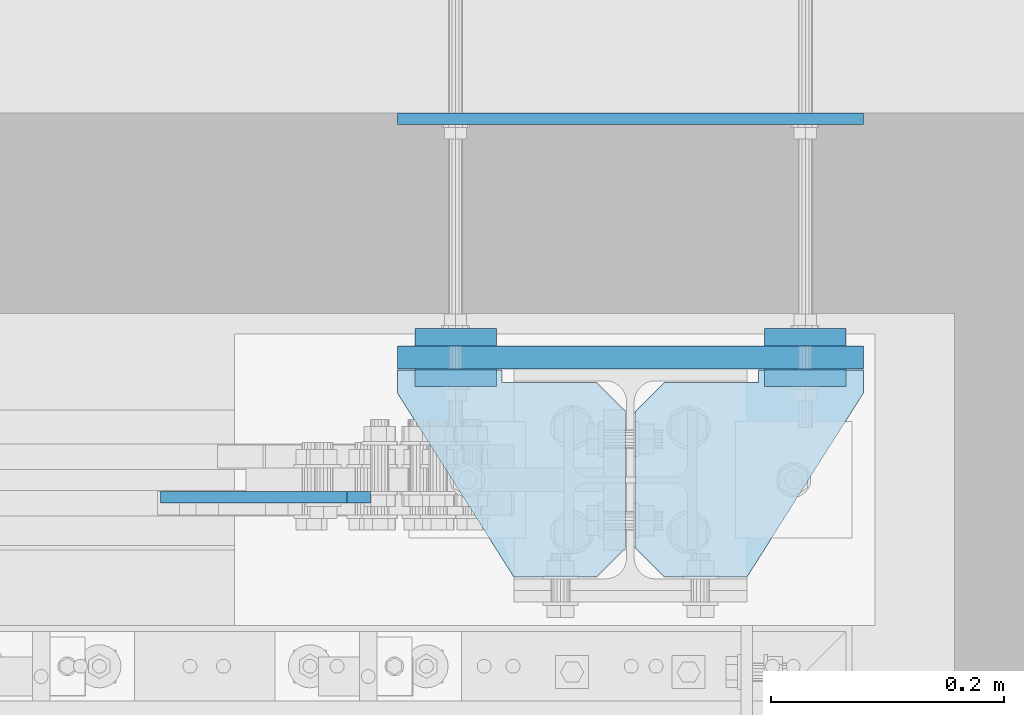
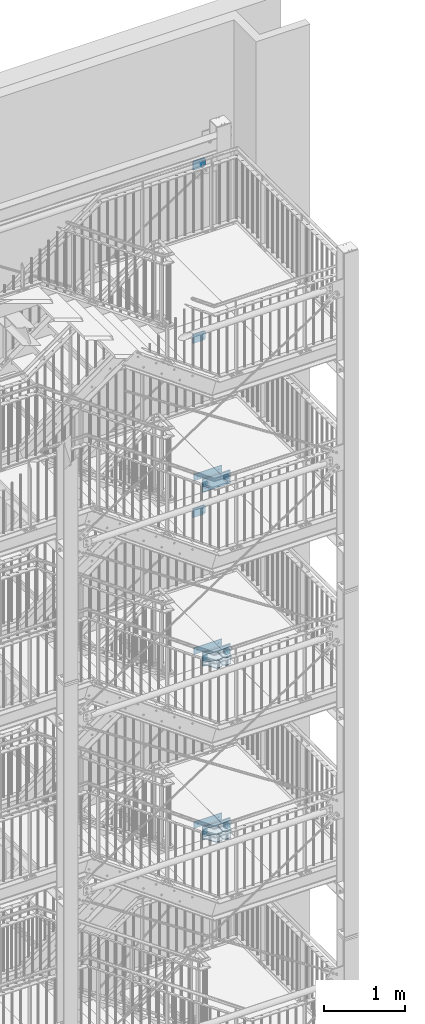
# One storey, part 215 of 831: 29 plates, 52 openings.
"""IFC2X3 building model written with IfcOpenShell, lengths in millimetres."""

import ifcopenshell
import ifcopenshell.guid

model = None  # the IFC model being written
_history = None  # IfcOwnerHistory: only IFC2X3 demands one
_inside = {}  # id of a spatial element -> (the spatial element, [elements in it])
_under = {}  # id of a project, library or spatial element -> (it, [spatial elements below it])
_declared = {}  # id of a project -> (the project, [libraries it declares])
_typed = {}  # id of a type object -> (the type object, [elements of that type])
_made_of = {}  # id of a material, layer set ... -> (it, [elements and type objects made of it])


def new_model(schema):
    """Start an empty IFC model of exactly this schema.

    Asked for "IFC4X3", IfcOpenShell would pick the latest addendum, in which some entities
    have other attributes; the version numbers below select the first issue.
    IFC2X3 requires an IfcOwnerHistory on every rooted entity: one is made here for all.
    """
    global model, _history
    if schema == "IFC4X3":
        model = ifcopenshell.file(schema_version=(4, 3, 0, 0))
    else:
        model = ifcopenshell.file(schema=schema)
    _inside.clear()
    _under.clear()
    _declared.clear()
    _typed.clear()
    _made_of.clear()
    _history = None
    if model.schema == "IFC2X3":
        org = make("IfcOrganization", Name="unknown")
        user = make(
            "IfcPersonAndOrganization",
            ThePerson=make("IfcPerson", FamilyName="unknown"),
            TheOrganization=org,
        )
        app = make(
            "IfcApplication",
            ApplicationDeveloper=org,
            Version="unknown",
            ApplicationFullName="unknown",
            ApplicationIdentifier="unknown",
        )
        _history = make(
            "IfcOwnerHistory",
            OwningUser=user,
            OwningApplication=app,
            ChangeAction="ADDED",
            CreationDate=0,
        )
    return model


def make(cls, **values):
    """One entity of the class cls with the attributes given. An attribute that is None is left unset."""
    return model.create_entity(
        cls, **{name: value for name, value in values.items() if value is not None}
    )


def entity(cls, *values):
    """Any entity or typed value of the class cls, its attributes in the order of the schema. None: left unset."""
    e = model.create_entity(cls)
    for i, value in enumerate(values):
        if value is not None:
            e[i] = value
    return e


def rooted(cls, **values):
    """An entity with a GlobalId (a new one), such as an element, a storey or a relation."""
    return make(cls, GlobalId=ifcopenshell.guid.new(), OwnerHistory=_history, **values)


def si_unit(unit_type, name, prefix=None):
    """IfcSIUnit, for example si_unit("LENGTHUNIT", "METRE", prefix="MILLI")."""
    return make("IfcSIUnit", UnitType=unit_type, Prefix=prefix, Name=name)


def converted_unit(unit_type, name, factor, base, dimensions=None, offset=None):
    """IfcConversionBasedUnit, such as the inch: factor (a typed value) times the base unit."""
    return make(
        "IfcConversionBasedUnit"
        if offset is None
        else "IfcConversionBasedUnitWithOffset",
        ConversionOffset=offset,
        Dimensions=None
        if dimensions is None
        else entity("IfcDimensionalExponents", *dimensions),
        UnitType=unit_type,
        Name=name,
        ConversionFactor=make(
            "IfcMeasureWithUnit", ValueComponent=factor, UnitComponent=base
        ),
    )


def assignment(units):
    """IfcUnitAssignment: the units of a project."""
    return None if units is None else make("IfcUnitAssignment", Units=units)


def point(xyz):
    """IfcCartesianPoint."""
    return None if xyz is None else make("IfcCartesianPoint", Coordinates=xyz)


def direction(xyz):
    """IfcDirection."""
    return None if xyz is None else make("IfcDirection", DirectionRatios=xyz)


def frame(location, z_axis=None, x_axis=None):
    """IfcAxis2Placement3D, a coordinate frame: its origin and axes. An axis left out is left unset."""
    return make(
        "IfcAxis2Placement3D",
        Location=point(location),
        Axis=direction(z_axis),
        RefDirection=direction(x_axis),
    )


def frame_2d(location, x_axis=None):
    """IfcAxis2Placement2D, a coordinate frame in the plane: its origin and x axis."""
    return make(
        "IfcAxis2Placement2D", Location=point(location), RefDirection=direction(x_axis)
    )


def origin():
    """The frame at (0, 0, 0) with its axes left unset."""
    return frame((0.0, 0.0, 0.0))


def origin_with_axes():
    """The frame at (0, 0, 0) with the z axis (0, 0, 1) and the x axis (1, 0, 0) written out."""
    return frame((0.0, 0.0, 0.0), z_axis=(0.0, 0.0, 1.0), x_axis=(1.0, 0.0, 0.0))


def origin_2d_with_axis():
    """The frame at (0, 0) in the plane with the x axis (1, 0) written out."""
    return frame_2d((0.0, 0.0), x_axis=(1.0, 0.0))


def place(relative_to, where):
    """IfcLocalPlacement: puts the frame where relative to a parent placement (None: the world)."""
    return make(
        "IfcLocalPlacement", PlacementRelTo=relative_to, RelativePlacement=where
    )


def context(
    kind, dimensions, precision=None, world=None, true_north=None, identifier=None
):
    """IfcGeometricRepresentationContext, for example the 3D "Model" context."""
    return make(
        "IfcGeometricRepresentationContext",
        ContextIdentifier=identifier,
        ContextType=kind,
        CoordinateSpaceDimension=dimensions,
        Precision=precision,
        WorldCoordinateSystem=world,
        TrueNorth=true_north,
    )


def project(units=None, contexts=None):
    """IfcProject with its units and contexts."""
    return rooted(
        "IfcProject",
        Name="project",
        RepresentationContexts=contexts,
        UnitsInContext=assignment(units),
    )


def spatial(cls, under=None, at=None, **own):
    """A site, building, storey or space (cls), placed at a placement, below another one or the project."""
    s = rooted(cls, ObjectPlacement=at, **own)
    if under is not None:
        _under.setdefault(under.id(), (under, []))[1].append(s)
    return s


def polyline(points):
    """IfcPolyline through the points."""
    return make("IfcPolyline", Points=[point(p) for p in points])


def profile(cls, at=None, kind="AREA", **sizes):
    """A parametric profile (cls). Its sizes go by their IFC names, for example OverallWidth=200.0."""
    return make(cls, ProfileType=kind, Position=at, **sizes)


def circle(**sizes):
    """IfcCircleProfileDef."""
    return profile("IfcCircleProfileDef", **sizes)


def outline(outer, holes=None, kind="AREA"):
    """IfcArbitraryClosedProfileDef: a profile drawn as a closed curve; with holes, ...WithVoids."""
    if holes is None:
        return make("IfcArbitraryClosedProfileDef", ProfileType=kind, OuterCurve=outer)
    return make(
        "IfcArbitraryProfileDefWithVoids",
        ProfileType=kind,
        OuterCurve=outer,
        InnerCurves=holes,
    )


def extrude(swept, where, along, depth):
    """IfcExtrudedAreaSolid: the profile swept, set in the frame where, extruded along a direction by depth."""
    return make(
        "IfcExtrudedAreaSolid",
        SweptArea=swept,
        Position=where,
        ExtrudedDirection=direction(along),
        Depth=depth,
    )


def shape(context_of_items, identifier, shape_type, items):
    """IfcShapeRepresentation: the items that make up one representation, for example the "Body"."""
    return make(
        "IfcShapeRepresentation",
        ContextOfItems=context_of_items,
        RepresentationIdentifier=identifier,
        RepresentationType=shape_type,
        Items=items,
    )


def material(Name=None, Category=None):
    """IfcMaterial."""
    return make("IfcMaterial", Name=Name, Category=Category)


def layer(
    of_material, thickness, ventilated=None, Name=None, Category=None, Priority=None
):
    """IfcMaterialLayer: one layer of a wall or slab, of a material (None: an air gap)."""
    return make(
        "IfcMaterialLayer",
        Material=of_material,
        LayerThickness=thickness,
        IsVentilated=ventilated,
        Name=Name,
        Category=Category,
        Priority=Priority,
    )


def layer_set(layers, Name=None):
    """IfcMaterialLayerSet."""
    return make("IfcMaterialLayerSet", MaterialLayers=layers, LayerSetName=Name)


def made_of(thing, what):
    """Note that an element or type object is made of a material, layer set ...; save() writes the relation."""
    if what is not None:
        _made_of.setdefault(what.id(), (what, []))[1].append(thing)
    return thing


def element(
    cls,
    number,
    at=None,
    inside=None,
    cuts=None,
    type_object=None,
    material=None,
    context=None,
    identifier="Body",
    shape_type=None,
    held_by="IfcProductDefinitionShape",
    body=None,
    shapes=None,
    **own,
):
    """One element of the class cls, such as IfcWall. Its Tag is "e" and its number.

    at: its placement. inside: the storey or other place that contains it. cuts: it is an
    opening in that element (IfcRelVoidsElement). A single representation is given by context,
    identifier, shape_type and body (its items); several are given by shapes. held_by: the class
    of the entity that holds the representations. save() writes the other relations.
    """
    e = rooted(cls, Tag="e%d" % number, ObjectPlacement=at, **own)
    if body is not None:
        shapes = [shape(context, identifier, shape_type, body)]
    if shapes is not None:
        e.Representation = make(held_by, Representations=shapes)
    if inside is not None:
        _inside.setdefault(inside.id(), (inside, []))[1].append(e)
    if cuts is not None:
        rooted(
            "IfcRelVoidsElement", RelatingBuildingElement=cuts, RelatedOpeningElement=e
        )
    if type_object is not None:
        _typed.setdefault(type_object.id(), (type_object, []))[1].append(e)
    return made_of(e, material)


def aggregate(whole, parts):
    """IfcRelAggregates: a whole, such as a stair, and the parts it consists of."""
    return rooted("IfcRelAggregates", RelatingObject=whole, RelatedObjects=parts)


def save(model, path):
    """Write the relations noted so far, then the file.

    IfcRelAggregates (storeys below a building ...), IfcRelContainedInSpatialStructure (elements
    in a storey), IfcRelDefinesByType, IfcRelAssociatesMaterial and IfcRelDeclares: one each for
    every whole, place, type object, material and project.
    """
    for whole, parts in _under.values():
        aggregate(whole, parts)
    for where, things in _inside.values():
        rooted(
            "IfcRelContainedInSpatialStructure",
            RelatedElements=things,
            RelatingStructure=where,
        )
    for kind, things in _typed.values():
        rooted("IfcRelDefinesByType", RelatedObjects=things, RelatingType=kind)
    for what, things in _made_of.values():
        rooted("IfcRelAssociatesMaterial", RelatedObjects=things, RelatingMaterial=what)
    for by, libraries in _declared.values():
        rooted("IfcRelDeclares", RelatingContext=by, RelatedDefinitions=libraries)
    model.write(path)


model = new_model("IFC2X3")

# Units and contexts
model_context = context("Model", 3, precision=1e-09, world=origin_with_axes())
ifc_project = project(units=[si_unit("LENGTHUNIT", "METRE", prefix="MILLI"), si_unit("AREAUNIT", "SQUARE_METRE"), si_unit("VOLUMEUNIT", "CUBIC_METRE"), converted_unit("PLANEANGLEUNIT", "DEGREE", entity("IfcPlaneAngleMeasure", 0.01745329), si_unit("PLANEANGLEUNIT", "RADIAN"), dimensions=[0, 0, 0, 0, 0, 0, 0])], contexts=[model_context])

# Site, building, storey
site_placement = place(None, origin_with_axes())
site = spatial("IfcSite", under=ifc_project, at=site_placement, Name="Site", CompositionType="ELEMENT")
building_placement = place(site_placement, origin_with_axes())
building = spatial("IfcBuilding", under=site, at=building_placement, Name="Struktur 1", CompositionType="ELEMENT")
storey_placement = place(building_placement, origin_with_axes())
storey = spatial("IfcBuildingStorey", under=building, at=storey_placement, Name="Default Storey", CompositionType="ELEMENT", Elevation=0.0)

# Plate, openings
ifc_material = material(Name="S235JR")
ifc_layer_1 = layer(ifc_material, 10.0)
ifc_layer_set_1 = layer_set([ifc_layer_1], Name="S235JR")
plate_1_placement = place(None, frame((8553.463402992, 7506.736971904, 12243.999996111), z_axis=(0.0, -1.0, 0.0), x_axis=(1.0, 0.0, 0.0)))
plate_1 = element("IfcPlate", 1, at=plate_1_placement, inside=storey, material=ifc_layer_set_1, Name="-", ObjectType="-", context=model_context, shape_type="SweptSolid", body=[
    extrude(outline(polyline([(-90.0, -70.0), (90.0, -70.0), (90.0, 70.0), (-90.0, 70.0), (-90.0, -70.0)])), origin_with_axes(), (0.0, 0.0, 1.0), 10.0),
])
opening_1_placement = place(plate_1_placement, frame((0.0, 0.0, -0.01), z_axis=(0.0, 0.0, 1.0), x_axis=(1.0, 0.0, 0.0)))
element("IfcOpeningElement", 2, at=opening_1_placement, cuts=plate_1, ObjectType="Opening", context=model_context, shape_type="SweptSolid", body=[
    extrude(outline(polyline([(90.0, -70.0), (90.0, -50.0), (70.0, -70.0), (90.0, -70.0)])), origin(), (0.0, 0.0, 1.0), 10.02),
])
opening_2_placement = place(plate_1_placement, frame((0.0, 0.0, -0.01), z_axis=(0.0, 0.0, 1.0), x_axis=(1.0, 0.0, 0.0)))
element("IfcOpeningElement", 3, at=opening_2_placement, cuts=plate_1, ObjectType="Opening", context=model_context, shape_type="SweptSolid", body=[
    extrude(outline(polyline([(90.0, 70.0), (70.0, 70.0), (90.0, 50.0), (90.0, 70.0)])), origin(), (0.0, 0.0, 1.0), 10.02),
])
opening_3_placement = place(plate_1_placement, frame((50.0, 0.0, -0.5), z_axis=(0.0, 0.0, 1.0), x_axis=(1.0, 0.0, 0.0)))
element("IfcOpeningElement", 4, at=opening_3_placement, cuts=plate_1, ObjectType="Opening", context=model_context, shape_type="SweptSolid", body=[
    extrude(circle(Radius=9.001, at=frame_2d((0.0, 30.0), x_axis=(1.0, 0.0))), origin(), (0.0, 0.0, 1.0), 11.0),
])
opening_4_placement = place(plate_1_placement, frame((50.0, 0.0, -0.5), z_axis=(0.0, 0.0, 1.0), x_axis=(1.0, 0.0, 0.0)))
element("IfcOpeningElement", 5, at=opening_4_placement, cuts=plate_1, ObjectType="Opening", context=model_context, shape_type="SweptSolid", body=[
    extrude(circle(Radius=9.001, at=frame_2d((0.0, -30.0), x_axis=(1.0, 0.0))), origin(), (0.0, 0.0, 1.0), 11.0),
])

plate_2_placement = place(None, frame((8553.463402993, 7506.736971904, 14878.999996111), z_axis=(0.0, -1.0, 0.0), x_axis=(1.0, 0.0, 0.0)))
plate_2 = element("IfcPlate", 6, at=plate_2_placement, inside=storey, material=ifc_layer_set_1, Name="-", ObjectType="-", context=model_context, shape_type="SweptSolid", body=[
    extrude(outline(polyline([(-90.0, -70.0), (90.0, -70.0), (90.0, 70.0), (-90.0, 70.0), (-90.0, -70.0)])), origin_with_axes(), (0.0, 0.0, 1.0), 10.0),
])
opening_5_placement = place(plate_2_placement, frame((0.0, 0.0, -0.01), z_axis=(0.0, 0.0, 1.0), x_axis=(1.0, 0.0, 0.0)))
element("IfcOpeningElement", 7, at=opening_5_placement, cuts=plate_2, ObjectType="Opening", context=model_context, shape_type="SweptSolid", body=[
    extrude(outline(polyline([(90.0, -70.0), (90.0, -50.0), (70.0, -70.0), (90.0, -70.0)])), origin(), (0.0, 0.0, 1.0), 10.02),
])
opening_6_placement = place(plate_2_placement, frame((0.0, 0.0, -0.01), z_axis=(0.0, 0.0, 1.0), x_axis=(1.0, 0.0, 0.0)))
element("IfcOpeningElement", 8, at=opening_6_placement, cuts=plate_2, ObjectType="Opening", context=model_context, shape_type="SweptSolid", body=[
    extrude(outline(polyline([(90.0, 70.0), (70.0, 70.0), (90.0, 50.0), (90.0, 70.0)])), origin(), (0.0, 0.0, 1.0), 10.02),
])
opening_7_placement = place(plate_2_placement, frame((50.0, 0.0, -0.5), z_axis=(0.0, 0.0, 1.0), x_axis=(1.0, 0.0, 0.0)))
element("IfcOpeningElement", 9, at=opening_7_placement, cuts=plate_2, ObjectType="Opening", context=model_context, shape_type="SweptSolid", body=[
    extrude(circle(Radius=9.001, at=frame_2d((0.0, 30.0), x_axis=(1.0, 0.0))), origin(), (0.0, 0.0, 1.0), 11.0),
])
opening_8_placement = place(plate_2_placement, frame((50.0, 0.0, -0.5), z_axis=(0.0, 0.0, 1.0), x_axis=(1.0, 0.0, 0.0)))
element("IfcOpeningElement", 10, at=opening_8_placement, cuts=plate_2, ObjectType="Opening", context=model_context, shape_type="SweptSolid", body=[
    extrude(circle(Radius=9.001, at=frame_2d((0.0, -30.0), x_axis=(1.0, 0.0))), origin(), (0.0, 0.0, 1.0), 11.0),
])

plate_3_placement = place(None, frame((8553.463402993, 7506.736971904, 17498.999996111), z_axis=(0.0, -1.0, 0.0), x_axis=(1.0, 0.0, 0.0)))
plate_3 = element("IfcPlate", 11, at=plate_3_placement, inside=storey, material=ifc_layer_set_1, Name="-", ObjectType="-", context=model_context, shape_type="SweptSolid", body=[
    extrude(outline(polyline([(-90.0, -70.0), (90.0, -70.0), (90.0, 70.0), (-90.0, 70.0), (-90.0, -70.0)])), origin_with_axes(), (0.0, 0.0, 1.0), 10.0),
])
opening_9_placement = place(plate_3_placement, frame((0.0, 0.0, -0.01), z_axis=(0.0, 0.0, 1.0), x_axis=(1.0, 0.0, 0.0)))
element("IfcOpeningElement", 12, at=opening_9_placement, cuts=plate_3, ObjectType="Opening", context=model_context, shape_type="SweptSolid", body=[
    extrude(outline(polyline([(90.0, -70.0), (90.0, -50.0), (70.0, -70.0), (90.0, -70.0)])), origin(), (0.0, 0.0, 1.0), 10.02),
])
opening_10_placement = place(plate_3_placement, frame((0.0, 0.0, -0.01), z_axis=(0.0, 0.0, 1.0), x_axis=(1.0, 0.0, 0.0)))
element("IfcOpeningElement", 13, at=opening_10_placement, cuts=plate_3, ObjectType="Opening", context=model_context, shape_type="SweptSolid", body=[
    extrude(outline(polyline([(90.0, 70.0), (70.0, 70.0), (90.0, 50.0), (90.0, 70.0)])), origin(), (0.0, 0.0, 1.0), 10.02),
])
opening_11_placement = place(plate_3_placement, frame((50.0, 0.0, -0.5), z_axis=(0.0, 0.0, 1.0), x_axis=(1.0, 0.0, 0.0)))
element("IfcOpeningElement", 14, at=opening_11_placement, cuts=plate_3, ObjectType="Opening", context=model_context, shape_type="SweptSolid", body=[
    extrude(circle(Radius=9.001, at=frame_2d((0.0, 30.0), x_axis=(1.0, 0.0))), origin(), (0.0, 0.0, 1.0), 11.0),
])
opening_12_placement = place(plate_3_placement, frame((50.0, 0.0, -0.5), z_axis=(0.0, 0.0, 1.0), x_axis=(1.0, 0.0, 0.0)))
element("IfcOpeningElement", 15, at=opening_12_placement, cuts=plate_3, ObjectType="Opening", context=model_context, shape_type="SweptSolid", body=[
    extrude(circle(Radius=9.001, at=frame_2d((0.0, -30.0), x_axis=(1.0, 0.0))), origin(), (0.0, 0.0, 1.0), 11.0),
])

ifc_layer_2 = layer(ifc_material, 20.0)
ifc_layer_set_2 = layer_set([ifc_layer_2], Name="S235JR")
plate_4_placement = place(None, frame((8866.713402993, 7631.736971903, 7255.000000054), z_axis=(0.0, -1.0, 0.0), x_axis=(1.0, 0.0, 0.0)))
plate_4 = element("IfcPlate", 16, at=plate_4_placement, inside=storey, material=ifc_layer_set_2, Name="-", ObjectType="-", context=model_context, shape_type="SweptSolid", body=[
    extrude(outline(polyline([(-200.0, -100.0), (200.0, -100.0), (200.0, 100.0), (-200.0, 100.0), (-200.0, -100.0)])), origin_with_axes(), (0.0, 0.0, 1.0), 20.0),
])
opening_13_placement = place(plate_4_placement, frame((-3.4e-08, -5.4e-08, -0.5), z_axis=(0.0, 0.0, 1.0), x_axis=(1.0, 0.0, 0.0)))
element("IfcOpeningElement", 17, at=opening_13_placement, cuts=plate_4, ObjectType="Opening", context=model_context, shape_type="SweptSolid", body=[
    extrude(circle(Radius=20.001, at=frame_2d((150.0, 0.0), x_axis=(1.0, 0.0))), origin(), (0.0, 0.0, 1.0), 21.0),
])
opening_14_placement = place(plate_4_placement, frame((-3.4e-08, -5.4e-08, -0.5), z_axis=(0.0, 0.0, 1.0), x_axis=(1.0, 0.0, 0.0)))
element("IfcOpeningElement", 18, at=opening_14_placement, cuts=plate_4, ObjectType="Opening", context=model_context, shape_type="SweptSolid", body=[
    extrude(circle(Radius=20.001, at=frame_2d((-150.0, 0.0), x_axis=(1.0, 0.0))), origin(), (0.0, 0.0, 1.0), 21.0),
])

# Plate, opening
ifc_layer_3 = layer(ifc_material, 15.0)
ifc_layer_set_3 = layer_set([ifc_layer_3], Name="S235JR")
plate_5_placement = place(None, frame((8716.71340296, 7611.736971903, 7255.0), z_axis=(0.0, -1.0, 0.0), x_axis=(1.0, 0.0, 0.0)))
plate_5 = element("IfcPlate", 19, at=plate_5_placement, inside=storey, material=ifc_layer_set_3, Name="-", ObjectType="-", context=model_context, shape_type="SweptSolid", body=[
    extrude(outline(polyline([(-35.0, -35.0), (35.0, -35.0), (35.0, 35.0), (-35.0, 35.0), (-35.0, -35.0)])), origin_with_axes(), (0.0, 0.0, 1.0), 15.0),
])
opening_15_placement = place(plate_5_placement, frame((-2.68e-07, 0.0, -0.5), z_axis=(0.0, 0.0, 1.0), x_axis=(1.0, 0.0, 0.0)))
element("IfcOpeningElement", 20, at=opening_15_placement, cuts=plate_5, ObjectType="Opening", context=model_context, shape_type="SweptSolid", body=[
    extrude(circle(Radius=7.001, at=origin_2d_with_axis()), origin(), (0.0, 0.0, 1.0), 16.0),
])

plate_6_placement = place(None, frame((8716.71340296, 7646.736971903, 7255.0), z_axis=(0.0, -1.0, 0.0), x_axis=(1.0, 0.0, 0.0)))
plate_6 = element("IfcPlate", 21, at=plate_6_placement, inside=storey, material=ifc_layer_set_3, Name="-", ObjectType="-", context=model_context, shape_type="SweptSolid", body=[
    extrude(outline(polyline([(-35.0, -35.0), (35.0, -35.0), (35.0, 35.0), (-35.0, 35.0), (-35.0, -35.0)])), origin_with_axes(), (0.0, 0.0, 1.0), 15.0),
])
opening_16_placement = place(plate_6_placement, frame((-2.68e-07, 0.0, -0.5), z_axis=(0.0, 0.0, 1.0), x_axis=(1.0, 0.0, 0.0)))
element("IfcOpeningElement", 22, at=opening_16_placement, cuts=plate_6, ObjectType="Opening", context=model_context, shape_type="SweptSolid", body=[
    extrude(circle(Radius=7.001, at=origin_2d_with_axis()), origin(), (0.0, 0.0, 1.0), 16.0),
])

# Plate, openings
plate_7_placement = place(None, frame((8866.713402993, 7831.736971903, 7255.000000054), z_axis=(0.0, -1.0, 0.0), x_axis=(1.0, 0.0, 0.0)))
plate_7 = element("IfcPlate", 23, at=plate_7_placement, inside=storey, material=ifc_layer_set_1, Name="-", ObjectType="-", context=model_context, shape_type="SweptSolid", body=[
    extrude(outline(polyline([(-200.0, -50.0), (200.0, -50.0), (200.0, 50.0), (-200.0, 50.0), (-200.0, -50.0)])), origin_with_axes(), (0.0, 0.0, 1.0), 10.0),
])
opening_17_placement = place(plate_7_placement, frame((-3.4e-08, -5.4e-08, -0.5), z_axis=(0.0, 0.0, 1.0), x_axis=(1.0, 0.0, 0.0)))
element("IfcOpeningElement", 24, at=opening_17_placement, cuts=plate_7, ObjectType="Opening", context=model_context, shape_type="SweptSolid", body=[
    extrude(circle(Radius=7.001, at=frame_2d((150.0, 0.0), x_axis=(1.0, 0.0))), origin(), (0.0, 0.0, 1.0), 11.0),
])
opening_18_placement = place(plate_7_placement, frame((-3.4e-08, -5.4e-08, -0.5), z_axis=(0.0, 0.0, 1.0), x_axis=(1.0, 0.0, 0.0)))
element("IfcOpeningElement", 25, at=opening_18_placement, cuts=plate_7, ObjectType="Opening", context=model_context, shape_type="SweptSolid", body=[
    extrude(circle(Radius=7.001, at=frame_2d((-150.0, 0.0), x_axis=(1.0, 0.0))), origin(), (0.0, 0.0, 1.0), 11.0),
])

plate_8_placement = place(None, frame((8666.713402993, 7611.236971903, 7310.000000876), z_axis=(0.0, 0.0, 1.0), x_axis=(0.0, -1.0, 0.0)))
plate_8 = element("IfcPlate", 26, at=plate_8_placement, inside=storey, material=ifc_layer_set_1, Name="-", ObjectType="-", context=model_context, shape_type="SweptSolid", body=[
    extrude(outline(polyline([(0.0, 0.0), (20.0, 0.0), (178.0, 100.0), (178.0, 196.0), (11.0, 196.0), (11.0, 90.0), (0.0, 90.0), (0.0, 0.0)])), origin_with_axes(), (0.0, 0.0, 1.0), 10.0),
])
opening_19_placement = place(plate_8_placement, frame((0.0, 0.0, -0.01), z_axis=(0.0, 0.0, 1.0), x_axis=(1.0, 0.0, 0.0)))
element("IfcOpeningElement", 27, at=opening_19_placement, cuts=plate_8, ObjectType="Opening", context=model_context, shape_type="SweptSolid", body=[
    extrude(outline(polyline([(11.0, 196.0), (11.0, 171.0), (36.0, 196.0), (11.0, 196.0)])), origin(), (0.0, 0.0, 1.0), 10.02),
])
opening_20_placement = place(plate_8_placement, frame((0.0, 0.0, -0.01), z_axis=(0.0, 0.0, 1.0), x_axis=(1.0, 0.0, 0.0)))
element("IfcOpeningElement", 28, at=opening_20_placement, cuts=plate_8, ObjectType="Opening", context=model_context, shape_type="SweptSolid", body=[
    extrude(outline(polyline([(178.0, 196.0), (153.0, 196.0), (178.0, 171.0), (178.0, 196.0)])), origin(), (0.0, 0.0, 1.0), 10.02),
])

plate_9_placement = place(None, frame((9066.713402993, 7611.236971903, 7310.000000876), z_axis=(0.0, 0.0, -1.0), x_axis=(0.0, -1.0, 0.0)))
plate_9 = element("IfcPlate", 29, at=plate_9_placement, inside=storey, material=ifc_layer_set_1, Name="-", ObjectType="-", context=model_context, shape_type="SweptSolid", body=[
    extrude(outline(polyline([(0.0, 0.0), (20.0, 0.0), (178.0, 100.0), (178.0, 196.0), (11.0, 196.0), (11.0, 90.0), (0.0, 90.0), (0.0, 0.0)])), origin_with_axes(), (0.0, 0.0, -1.0), 10.0),
])
opening_21_placement = place(plate_9_placement, frame((11.0, 196.0, 0.01), z_axis=(0.0, 0.0, 1.0), x_axis=(0.0, -1.0, 0.0)))
element("IfcOpeningElement", 30, at=opening_21_placement, cuts=plate_9, ObjectType="Opening", context=model_context, shape_type="SweptSolid", body=[
    extrude(outline(polyline([(0.0, 0.0), (25.0, 0.0), (0.0, 25.0), (0.0, 0.0)])), origin(), (0.0, 0.0, -1.0), 10.02),
])
opening_22_placement = place(plate_9_placement, frame((178.0, 196.0, 0.01), z_axis=(0.0, 0.0, 1.0), x_axis=(-1.0, 0.0, 0.0)))
element("IfcOpeningElement", 31, at=opening_22_placement, cuts=plate_9, ObjectType="Opening", context=model_context, shape_type="SweptSolid", body=[
    extrude(outline(polyline([(0.0, 0.0), (25.0, 0.0), (0.0, 25.0), (0.0, 0.0)])), origin(), (0.0, 0.0, -1.0), 10.02),
])

plate_10_placement = place(None, frame((8666.713402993, 7611.236971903, 7190.000000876), z_axis=(0.0, 0.0, 1.0), x_axis=(0.0, -1.0, 0.0)))
plate_10 = element("IfcPlate", 32, at=plate_10_placement, inside=storey, material=ifc_layer_set_1, Name="-", ObjectType="-", context=model_context, shape_type="SweptSolid", body=[
    extrude(outline(polyline([(0.0, 0.0), (20.0, 0.0), (178.0, 100.0), (178.0, 196.0), (11.0, 196.0), (11.0, 90.0), (0.0, 90.0), (0.0, 0.0)])), origin_with_axes(), (0.0, 0.0, 1.0), 10.0),
])
opening_23_placement = place(plate_10_placement, frame((0.0, 0.0, -0.01), z_axis=(0.0, 0.0, 1.0), x_axis=(1.0, 0.0, 0.0)))
element("IfcOpeningElement", 33, at=opening_23_placement, cuts=plate_10, ObjectType="Opening", context=model_context, shape_type="SweptSolid", body=[
    extrude(outline(polyline([(11.0, 196.0), (11.0, 171.0), (36.0, 196.0), (11.0, 196.0)])), origin(), (0.0, 0.0, 1.0), 10.02),
])
opening_24_placement = place(plate_10_placement, frame((0.0, 0.0, -0.01), z_axis=(0.0, 0.0, 1.0), x_axis=(1.0, 0.0, 0.0)))
element("IfcOpeningElement", 34, at=opening_24_placement, cuts=plate_10, ObjectType="Opening", context=model_context, shape_type="SweptSolid", body=[
    extrude(outline(polyline([(178.0, 196.0), (153.0, 196.0), (178.0, 171.0), (178.0, 196.0)])), origin(), (0.0, 0.0, 1.0), 10.02),
])

plate_11_placement = place(None, frame((9066.713402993, 7611.236971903, 7190.000000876), z_axis=(0.0, 0.0, -1.0), x_axis=(0.0, -1.0, 0.0)))
plate_11 = element("IfcPlate", 35, at=plate_11_placement, inside=storey, material=ifc_layer_set_1, Name="-", ObjectType="-", context=model_context, shape_type="SweptSolid", body=[
    extrude(outline(polyline([(0.0, 0.0), (20.0, 0.0), (178.0, 100.0), (178.0, 196.0), (11.0, 196.0), (11.0, 90.0), (0.0, 90.0), (0.0, 0.0)])), origin_with_axes(), (0.0, 0.0, -1.0), 10.0),
])
opening_25_placement = place(plate_11_placement, frame((11.0, 196.0, 0.01), z_axis=(0.0, 0.0, 1.0), x_axis=(0.0, -1.0, 0.0)))
element("IfcOpeningElement", 36, at=opening_25_placement, cuts=plate_11, ObjectType="Opening", context=model_context, shape_type="SweptSolid", body=[
    extrude(outline(polyline([(0.0, 0.0), (25.0, 0.0), (0.0, 25.0), (0.0, 0.0)])), origin(), (0.0, 0.0, -1.0), 10.02),
])
opening_26_placement = place(plate_11_placement, frame((178.0, 196.0, 0.01), z_axis=(0.0, 0.0, 1.0), x_axis=(-1.0, 0.0, 0.0)))
element("IfcOpeningElement", 37, at=opening_26_placement, cuts=plate_11, ObjectType="Opening", context=model_context, shape_type="SweptSolid", body=[
    extrude(outline(polyline([(0.0, 0.0), (25.0, 0.0), (0.0, 25.0), (0.0, 0.0)])), origin(), (0.0, 0.0, -1.0), 10.02),
])

# Plate, opening
plate_12_placement = place(None, frame((9016.713403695, 7611.736971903, 7255.0), z_axis=(0.0, 1.0, 0.0), x_axis=(-1.0, 0.0, 0.0)))
plate_12 = element("IfcPlate", 38, at=plate_12_placement, inside=storey, material=ifc_layer_set_3, Name="-", ObjectType="-", context=model_context, shape_type="SweptSolid", body=[
    extrude(outline(polyline([(-35.0, -35.0), (35.0, -35.0), (35.0, 35.0), (-35.0, 35.0), (-35.0, -35.0)])), origin_with_axes(), (0.0, 0.0, -1.0), 15.0),
])
opening_27_placement = place(plate_12_placement, frame((-7.001000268, 0.0, 0.5), z_axis=(0.0, 0.0, 1.0), x_axis=(1.0, 0.0, 0.0)))
element("IfcOpeningElement", 39, at=opening_27_placement, cuts=plate_12, ObjectType="Opening", context=model_context, shape_type="SweptSolid", body=[
    extrude(circle(Radius=7.001, at=frame_2d((7.001, 0.0), x_axis=(1.0, 0.0))), origin(), (0.0, 0.0, -1.0), 16.0),
])

plate_13_placement = place(None, frame((9016.713403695, 7646.736971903, 7255.0), z_axis=(0.0, 1.0, 0.0), x_axis=(-1.0, 0.0, 0.0)))
plate_13 = element("IfcPlate", 40, at=plate_13_placement, inside=storey, material=ifc_layer_set_3, Name="-", ObjectType="-", context=model_context, shape_type="SweptSolid", body=[
    extrude(outline(polyline([(-35.0, -35.0), (35.0, -35.0), (35.0, 35.0), (-35.0, 35.0), (-35.0, -35.0)])), origin_with_axes(), (0.0, 0.0, -1.0), 15.0),
])
opening_28_placement = place(plate_13_placement, frame((-7.001000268, 0.0, 0.5), z_axis=(0.0, 0.0, 1.0), x_axis=(1.0, 0.0, 0.0)))
element("IfcOpeningElement", 41, at=opening_28_placement, cuts=plate_13, ObjectType="Opening", context=model_context, shape_type="SweptSolid", body=[
    extrude(circle(Radius=7.001, at=frame_2d((7.001, 0.0), x_axis=(1.0, 0.0))), origin(), (0.0, 0.0, -1.0), 16.0),
])

plate_14_placement = place(None, frame((9016.713403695, 7646.736971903, 9887.0), z_axis=(0.0, 1.0, 0.0), x_axis=(-1.0, 0.0, 0.0)))
plate_14 = element("IfcPlate", 42, at=plate_14_placement, inside=storey, material=ifc_layer_set_3, Name="-", ObjectType="-", context=model_context, shape_type="SweptSolid", body=[
    extrude(outline(polyline([(-35.0, -35.0), (35.0, -35.0), (35.0, 35.0), (-35.0, 35.0), (-35.0, -35.0)])), origin_with_axes(), (0.0, 0.0, -1.0), 15.0),
])
opening_29_placement = place(plate_14_placement, frame((-7.001000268, 0.0, 0.5), z_axis=(0.0, 0.0, 1.0), x_axis=(1.0, 0.0, 0.0)))
element("IfcOpeningElement", 43, at=opening_29_placement, cuts=plate_14, ObjectType="Opening", context=model_context, shape_type="SweptSolid", body=[
    extrude(circle(Radius=7.001, at=frame_2d((7.001, 0.0), x_axis=(1.0, 0.0))), origin(), (0.0, 0.0, -1.0), 16.0),
])

plate_15_placement = place(None, frame((9016.713403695, 7611.736971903, 9887.0), z_axis=(0.0, 1.0, 0.0), x_axis=(-1.0, 0.0, 0.0)))
plate_15 = element("IfcPlate", 44, at=plate_15_placement, inside=storey, material=ifc_layer_set_3, Name="-", ObjectType="-", context=model_context, shape_type="SweptSolid", body=[
    extrude(outline(polyline([(-35.0, -35.0), (35.0, -35.0), (35.0, 35.0), (-35.0, 35.0), (-35.0, -35.0)])), origin_with_axes(), (0.0, 0.0, -1.0), 15.0),
])
opening_30_placement = place(plate_15_placement, frame((-7.001000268, 0.0, 0.5), z_axis=(0.0, 0.0, 1.0), x_axis=(1.0, 0.0, 0.0)))
element("IfcOpeningElement", 45, at=opening_30_placement, cuts=plate_15, ObjectType="Opening", context=model_context, shape_type="SweptSolid", body=[
    extrude(circle(Radius=7.001, at=frame_2d((7.001, 0.0), x_axis=(1.0, 0.0))), origin(), (0.0, 0.0, -1.0), 16.0),
])

# Plate, openings
plate_16_placement = place(None, frame((8866.713402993, 7831.736971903, 9887.000000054), z_axis=(0.0, -1.0, 0.0), x_axis=(1.0, 0.0, 0.0)))
plate_16 = element("IfcPlate", 46, at=plate_16_placement, inside=storey, material=ifc_layer_set_1, Name="-", ObjectType="-", context=model_context, shape_type="SweptSolid", body=[
    extrude(outline(polyline([(-200.0, -50.0), (200.0, -50.0), (200.0, 50.0), (-200.0, 50.0), (-200.0, -50.0)])), origin_with_axes(), (0.0, 0.0, 1.0), 10.0),
])
opening_31_placement = place(plate_16_placement, frame((-3.4e-08, -5.4e-08, -0.5), z_axis=(0.0, 0.0, 1.0), x_axis=(1.0, 0.0, 0.0)))
element("IfcOpeningElement", 47, at=opening_31_placement, cuts=plate_16, ObjectType="Opening", context=model_context, shape_type="SweptSolid", body=[
    extrude(circle(Radius=7.001, at=frame_2d((150.0, 0.0), x_axis=(1.0, 0.0))), origin(), (0.0, 0.0, 1.0), 11.0),
])
opening_32_placement = place(plate_16_placement, frame((-3.4e-08, -5.4e-08, -0.5), z_axis=(0.0, 0.0, 1.0), x_axis=(1.0, 0.0, 0.0)))
element("IfcOpeningElement", 48, at=opening_32_placement, cuts=plate_16, ObjectType="Opening", context=model_context, shape_type="SweptSolid", body=[
    extrude(circle(Radius=7.001, at=frame_2d((-150.0, 0.0), x_axis=(1.0, 0.0))), origin(), (0.0, 0.0, 1.0), 11.0),
])

# Plate, opening
plate_17_placement = place(None, frame((8716.71340296, 7646.736971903, 9887.0), z_axis=(0.0, -1.0, 0.0), x_axis=(1.0, 0.0, 0.0)))
plate_17 = element("IfcPlate", 49, at=plate_17_placement, inside=storey, material=ifc_layer_set_3, Name="-", ObjectType="-", context=model_context, shape_type="SweptSolid", body=[
    extrude(outline(polyline([(-35.0, -35.0), (35.0, -35.0), (35.0, 35.0), (-35.0, 35.0), (-35.0, -35.0)])), origin_with_axes(), (0.0, 0.0, 1.0), 15.0),
])
opening_33_placement = place(plate_17_placement, frame((-2.68e-07, 0.0, -0.5), z_axis=(0.0, 0.0, 1.0), x_axis=(1.0, 0.0, 0.0)))
element("IfcOpeningElement", 50, at=opening_33_placement, cuts=plate_17, ObjectType="Opening", context=model_context, shape_type="SweptSolid", body=[
    extrude(circle(Radius=7.001, at=origin_2d_with_axis()), origin(), (0.0, 0.0, 1.0), 16.0),
])

plate_18_placement = place(None, frame((8716.71340296, 7611.736971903, 9887.0), z_axis=(0.0, -1.0, 0.0), x_axis=(1.0, 0.0, 0.0)))
plate_18 = element("IfcPlate", 51, at=plate_18_placement, inside=storey, material=ifc_layer_set_3, Name="-", ObjectType="-", context=model_context, shape_type="SweptSolid", body=[
    extrude(outline(polyline([(-35.0, -35.0), (35.0, -35.0), (35.0, 35.0), (-35.0, 35.0), (-35.0, -35.0)])), origin_with_axes(), (0.0, 0.0, 1.0), 15.0),
])
opening_34_placement = place(plate_18_placement, frame((-2.68e-07, 0.0, -0.5), z_axis=(0.0, 0.0, 1.0), x_axis=(1.0, 0.0, 0.0)))
element("IfcOpeningElement", 52, at=opening_34_placement, cuts=plate_18, ObjectType="Opening", context=model_context, shape_type="SweptSolid", body=[
    extrude(circle(Radius=7.001, at=origin_2d_with_axis()), origin(), (0.0, 0.0, 1.0), 16.0),
])

# Plate, openings
plate_19_placement = place(None, frame((9066.713402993, 7611.236971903, 9822.000000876), z_axis=(0.0, 0.0, -1.0), x_axis=(0.0, -1.0, 0.0)))
plate_19 = element("IfcPlate", 53, at=plate_19_placement, inside=storey, material=ifc_layer_set_1, Name="-", ObjectType="-", context=model_context, shape_type="SweptSolid", body=[
    extrude(outline(polyline([(0.0, 0.0), (20.0, 0.0), (178.0, 100.0), (178.0, 196.0), (11.0, 196.0), (11.0, 90.0), (0.0, 90.0), (0.0, 0.0)])), origin_with_axes(), (0.0, 0.0, -1.0), 10.0),
])
opening_35_placement = place(plate_19_placement, frame((11.0, 196.0, 0.01), z_axis=(0.0, 0.0, 1.0), x_axis=(0.0, -1.0, 0.0)))
element("IfcOpeningElement", 54, at=opening_35_placement, cuts=plate_19, ObjectType="Opening", context=model_context, shape_type="SweptSolid", body=[
    extrude(outline(polyline([(0.0, 0.0), (25.0, 0.0), (0.0, 25.0), (0.0, 0.0)])), origin(), (0.0, 0.0, -1.0), 10.02),
])
opening_36_placement = place(plate_19_placement, frame((178.0, 196.0, 0.01), z_axis=(0.0, 0.0, 1.0), x_axis=(-1.0, 0.0, 0.0)))
element("IfcOpeningElement", 55, at=opening_36_placement, cuts=plate_19, ObjectType="Opening", context=model_context, shape_type="SweptSolid", body=[
    extrude(outline(polyline([(0.0, 0.0), (25.0, 0.0), (0.0, 25.0), (0.0, 0.0)])), origin(), (0.0, 0.0, -1.0), 10.02),
])

plate_20_placement = place(None, frame((9066.713402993, 7611.236971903, 9942.000000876), z_axis=(0.0, 0.0, -1.0), x_axis=(0.0, -1.0, 0.0)))
plate_20 = element("IfcPlate", 56, at=plate_20_placement, inside=storey, material=ifc_layer_set_1, Name="-", ObjectType="-", context=model_context, shape_type="SweptSolid", body=[
    extrude(outline(polyline([(0.0, 0.0), (20.0, 0.0), (178.0, 100.0), (178.0, 196.0), (11.0, 196.0), (11.0, 90.0), (0.0, 90.0), (0.0, 0.0)])), origin_with_axes(), (0.0, 0.0, -1.0), 10.0),
])
opening_37_placement = place(plate_20_placement, frame((11.0, 196.0, 0.01), z_axis=(0.0, 0.0, 1.0), x_axis=(0.0, -1.0, 0.0)))
element("IfcOpeningElement", 57, at=opening_37_placement, cuts=plate_20, ObjectType="Opening", context=model_context, shape_type="SweptSolid", body=[
    extrude(outline(polyline([(0.0, 0.0), (25.0, 0.0), (0.0, 25.0), (0.0, 0.0)])), origin(), (0.0, 0.0, -1.0), 10.02),
])
opening_38_placement = place(plate_20_placement, frame((178.0, 196.0, 0.01), z_axis=(0.0, 0.0, 1.0), x_axis=(-1.0, 0.0, 0.0)))
element("IfcOpeningElement", 58, at=opening_38_placement, cuts=plate_20, ObjectType="Opening", context=model_context, shape_type="SweptSolid", body=[
    extrude(outline(polyline([(0.0, 0.0), (25.0, 0.0), (0.0, 25.0), (0.0, 0.0)])), origin(), (0.0, 0.0, -1.0), 10.02),
])

plate_21_placement = place(None, frame((8666.713402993, 7611.236971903, 9822.000000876), z_axis=(0.0, 0.0, 1.0), x_axis=(0.0, -1.0, 0.0)))
plate_21 = element("IfcPlate", 59, at=plate_21_placement, inside=storey, material=ifc_layer_set_1, Name="-", ObjectType="-", context=model_context, shape_type="SweptSolid", body=[
    extrude(outline(polyline([(0.0, 0.0), (20.0, 0.0), (178.0, 100.0), (178.0, 196.0), (11.0, 196.0), (11.0, 90.0), (0.0, 90.0), (0.0, 0.0)])), origin_with_axes(), (0.0, 0.0, 1.0), 10.0),
])
opening_39_placement = place(plate_21_placement, frame((0.0, 0.0, -0.01), z_axis=(0.0, 0.0, 1.0), x_axis=(1.0, 0.0, 0.0)))
element("IfcOpeningElement", 60, at=opening_39_placement, cuts=plate_21, ObjectType="Opening", context=model_context, shape_type="SweptSolid", body=[
    extrude(outline(polyline([(11.0, 196.0), (11.0, 171.0), (36.0, 196.0), (11.0, 196.0)])), origin(), (0.0, 0.0, 1.0), 10.02),
])
opening_40_placement = place(plate_21_placement, frame((0.0, 0.0, -0.01), z_axis=(0.0, 0.0, 1.0), x_axis=(1.0, 0.0, 0.0)))
element("IfcOpeningElement", 61, at=opening_40_placement, cuts=plate_21, ObjectType="Opening", context=model_context, shape_type="SweptSolid", body=[
    extrude(outline(polyline([(178.0, 196.0), (153.0, 196.0), (178.0, 171.0), (178.0, 196.0)])), origin(), (0.0, 0.0, 1.0), 10.02),
])

plate_22_placement = place(None, frame((8666.713402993, 7611.236971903, 9942.000000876), z_axis=(0.0, 0.0, 1.0), x_axis=(0.0, -1.0, 0.0)))
plate_22 = element("IfcPlate", 62, at=plate_22_placement, inside=storey, material=ifc_layer_set_1, Name="-", ObjectType="-", context=model_context, shape_type="SweptSolid", body=[
    extrude(outline(polyline([(0.0, 0.0), (20.0, 0.0), (178.0, 100.0), (178.0, 196.0), (11.0, 196.0), (11.0, 90.0), (0.0, 90.0), (0.0, 0.0)])), origin_with_axes(), (0.0, 0.0, 1.0), 10.0),
])
opening_41_placement = place(plate_22_placement, frame((0.0, 0.0, -0.01), z_axis=(0.0, 0.0, 1.0), x_axis=(1.0, 0.0, 0.0)))
element("IfcOpeningElement", 63, at=opening_41_placement, cuts=plate_22, ObjectType="Opening", context=model_context, shape_type="SweptSolid", body=[
    extrude(outline(polyline([(11.0, 196.0), (11.0, 171.0), (36.0, 196.0), (11.0, 196.0)])), origin(), (0.0, 0.0, 1.0), 10.02),
])
opening_42_placement = place(plate_22_placement, frame((0.0, 0.0, -0.01), z_axis=(0.0, 0.0, 1.0), x_axis=(1.0, 0.0, 0.0)))
element("IfcOpeningElement", 64, at=opening_42_placement, cuts=plate_22, ObjectType="Opening", context=model_context, shape_type="SweptSolid", body=[
    extrude(outline(polyline([(178.0, 196.0), (153.0, 196.0), (178.0, 171.0), (178.0, 196.0)])), origin(), (0.0, 0.0, 1.0), 10.02),
])

plate_23_placement = place(None, frame((8866.713402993, 7631.736971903, 9887.000000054), z_axis=(0.0, -1.0, 0.0), x_axis=(1.0, 0.0, 0.0)))
plate_23 = element("IfcPlate", 65, at=plate_23_placement, inside=storey, material=ifc_layer_set_2, Name="-", ObjectType="-", context=model_context, shape_type="SweptSolid", body=[
    extrude(outline(polyline([(-200.0, -100.0), (200.0, -100.0), (200.0, 100.0), (-200.0, 100.0), (-200.0, -100.0)])), origin_with_axes(), (0.0, 0.0, 1.0), 20.0),
])
opening_43_placement = place(plate_23_placement, frame((-3.4e-08, -5.4e-08, -0.5), z_axis=(0.0, 0.0, 1.0), x_axis=(1.0, 0.0, 0.0)))
element("IfcOpeningElement", 66, at=opening_43_placement, cuts=plate_23, ObjectType="Opening", context=model_context, shape_type="SweptSolid", body=[
    extrude(circle(Radius=20.001, at=frame_2d((150.0, 0.0), x_axis=(1.0, 0.0))), origin(), (0.0, 0.0, 1.0), 21.0),
])
opening_44_placement = place(plate_23_placement, frame((-3.4e-08, -5.4e-08, -0.5), z_axis=(0.0, 0.0, 1.0), x_axis=(1.0, 0.0, 0.0)))
element("IfcOpeningElement", 67, at=opening_44_placement, cuts=plate_23, ObjectType="Opening", context=model_context, shape_type="SweptSolid", body=[
    extrude(circle(Radius=20.001, at=frame_2d((-150.0, 0.0), x_axis=(1.0, 0.0))), origin(), (0.0, 0.0, 1.0), 21.0),
])

# Plate, opening
plate_24_placement = place(None, frame((8716.71340296, 7611.736971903, 12514.0), z_axis=(0.0, -1.0, 0.0), x_axis=(1.0, 0.0, 0.0)))
plate_24 = element("IfcPlate", 68, at=plate_24_placement, inside=storey, material=ifc_layer_set_3, Name="-", ObjectType="-", context=model_context, shape_type="SweptSolid", body=[
    extrude(outline(polyline([(-35.0, -35.0), (35.0, -35.0), (35.0, 35.0), (-35.0, 35.0), (-35.0, -35.0)])), origin_with_axes(), (0.0, 0.0, 1.0), 15.0),
])
opening_45_placement = place(plate_24_placement, frame((-2.68e-07, 0.0, -0.5), z_axis=(0.0, 0.0, 1.0), x_axis=(1.0, 0.0, 0.0)))
element("IfcOpeningElement", 69, at=opening_45_placement, cuts=plate_24, ObjectType="Opening", context=model_context, shape_type="SweptSolid", body=[
    extrude(circle(Radius=7.001, at=origin_2d_with_axis()), origin(), (0.0, 0.0, 1.0), 16.0),
])

plate_25_placement = place(None, frame((8716.71340296, 7646.736971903, 12514.0), z_axis=(0.0, -1.0, 0.0), x_axis=(1.0, 0.0, 0.0)))
plate_25 = element("IfcPlate", 70, at=plate_25_placement, inside=storey, material=ifc_layer_set_3, Name="-", ObjectType="-", context=model_context, shape_type="SweptSolid", body=[
    extrude(outline(polyline([(-35.0, -35.0), (35.0, -35.0), (35.0, 35.0), (-35.0, 35.0), (-35.0, -35.0)])), origin_with_axes(), (0.0, 0.0, 1.0), 15.0),
])
opening_46_placement = place(plate_25_placement, frame((-2.68e-07, 0.0, -0.5), z_axis=(0.0, 0.0, 1.0), x_axis=(1.0, 0.0, 0.0)))
element("IfcOpeningElement", 71, at=opening_46_placement, cuts=plate_25, ObjectType="Opening", context=model_context, shape_type="SweptSolid", body=[
    extrude(circle(Radius=7.001, at=origin_2d_with_axis()), origin(), (0.0, 0.0, 1.0), 16.0),
])

# Plate, openings
plate_26_placement = place(None, frame((8866.713402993, 7831.736971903, 12514.000000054), z_axis=(0.0, -1.0, 0.0), x_axis=(1.0, 0.0, 0.0)))
plate_26 = element("IfcPlate", 72, at=plate_26_placement, inside=storey, material=ifc_layer_set_1, Name="-", ObjectType="-", context=model_context, shape_type="SweptSolid", body=[
    extrude(outline(polyline([(-200.0, -50.0), (200.0, -50.0), (200.0, 50.0), (-200.0, 50.0), (-200.0, -50.0)])), origin_with_axes(), (0.0, 0.0, 1.0), 10.0),
])
opening_47_placement = place(plate_26_placement, frame((-3.4e-08, -5.4e-08, -0.5), z_axis=(0.0, 0.0, 1.0), x_axis=(1.0, 0.0, 0.0)))
element("IfcOpeningElement", 73, at=opening_47_placement, cuts=plate_26, ObjectType="Opening", context=model_context, shape_type="SweptSolid", body=[
    extrude(circle(Radius=7.001, at=frame_2d((150.0, 0.0), x_axis=(1.0, 0.0))), origin(), (0.0, 0.0, 1.0), 11.0),
])
opening_48_placement = place(plate_26_placement, frame((-3.4e-08, -5.4e-08, -0.5), z_axis=(0.0, 0.0, 1.0), x_axis=(1.0, 0.0, 0.0)))
element("IfcOpeningElement", 74, at=opening_48_placement, cuts=plate_26, ObjectType="Opening", context=model_context, shape_type="SweptSolid", body=[
    extrude(circle(Radius=7.001, at=frame_2d((-150.0, 0.0), x_axis=(1.0, 0.0))), origin(), (0.0, 0.0, 1.0), 11.0),
])

# Plate, opening
plate_27_placement = place(None, frame((9016.713403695, 7611.736971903, 12514.0), z_axis=(0.0, 1.0, 0.0), x_axis=(-1.0, 0.0, 0.0)))
plate_27 = element("IfcPlate", 75, at=plate_27_placement, inside=storey, material=ifc_layer_set_3, Name="-", ObjectType="-", context=model_context, shape_type="SweptSolid", body=[
    extrude(outline(polyline([(-35.0, -35.0), (35.0, -35.0), (35.0, 35.0), (-35.0, 35.0), (-35.0, -35.0)])), origin_with_axes(), (0.0, 0.0, -1.0), 15.0),
])
opening_49_placement = place(plate_27_placement, frame((-7.001000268, 0.0, 0.5), z_axis=(0.0, 0.0, 1.0), x_axis=(1.0, 0.0, 0.0)))
element("IfcOpeningElement", 76, at=opening_49_placement, cuts=plate_27, ObjectType="Opening", context=model_context, shape_type="SweptSolid", body=[
    extrude(circle(Radius=7.001, at=frame_2d((7.001, 0.0), x_axis=(1.0, 0.0))), origin(), (0.0, 0.0, -1.0), 16.0),
])

plate_28_placement = place(None, frame((9016.713403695, 7646.736971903, 12514.0), z_axis=(0.0, 1.0, 0.0), x_axis=(-1.0, 0.0, 0.0)))
plate_28 = element("IfcPlate", 77, at=plate_28_placement, inside=storey, material=ifc_layer_set_3, Name="-", ObjectType="-", context=model_context, shape_type="SweptSolid", body=[
    extrude(outline(polyline([(-35.0, -35.0), (35.0, -35.0), (35.0, 35.0), (-35.0, 35.0), (-35.0, -35.0)])), origin_with_axes(), (0.0, 0.0, -1.0), 15.0),
])
opening_50_placement = place(plate_28_placement, frame((-7.001000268, 0.0, 0.5), z_axis=(0.0, 0.0, 1.0), x_axis=(1.0, 0.0, 0.0)))
element("IfcOpeningElement", 78, at=opening_50_placement, cuts=plate_28, ObjectType="Opening", context=model_context, shape_type="SweptSolid", body=[
    extrude(circle(Radius=7.001, at=frame_2d((7.001, 0.0), x_axis=(1.0, 0.0))), origin(), (0.0, 0.0, -1.0), 16.0),
])

# Plate, openings
plate_29_placement = place(None, frame((8866.713402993, 7631.736971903, 12514.000000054), z_axis=(0.0, -1.0, 0.0), x_axis=(1.0, 0.0, 0.0)))
plate_29 = element("IfcPlate", 79, at=plate_29_placement, inside=storey, material=ifc_layer_set_2, Name="-", ObjectType="-", context=model_context, shape_type="SweptSolid", body=[
    extrude(outline(polyline([(-200.0, -100.0), (200.0, -100.0), (200.0, 100.0), (-200.0, 100.0), (-200.0, -100.0)])), origin_with_axes(), (0.0, 0.0, 1.0), 20.0),
])
opening_51_placement = place(plate_29_placement, frame((-3.4e-08, -5.4e-08, -0.5), z_axis=(0.0, 0.0, 1.0), x_axis=(1.0, 0.0, 0.0)))
element("IfcOpeningElement", 80, at=opening_51_placement, cuts=plate_29, ObjectType="Opening", context=model_context, shape_type="SweptSolid", body=[
    extrude(circle(Radius=20.001, at=frame_2d((150.0, 0.0), x_axis=(1.0, 0.0))), origin(), (0.0, 0.0, 1.0), 21.0),
])
opening_52_placement = place(plate_29_placement, frame((-3.4e-08, -5.4e-08, -0.5), z_axis=(0.0, 0.0, 1.0), x_axis=(1.0, 0.0, 0.0)))
element("IfcOpeningElement", 81, at=opening_52_placement, cuts=plate_29, ObjectType="Opening", context=model_context, shape_type="SweptSolid", body=[
    extrude(circle(Radius=20.001, at=frame_2d((-150.0, 0.0), x_axis=(1.0, 0.0))), origin(), (0.0, 0.0, 1.0), 21.0),
])

save(model, "model.ifc")
